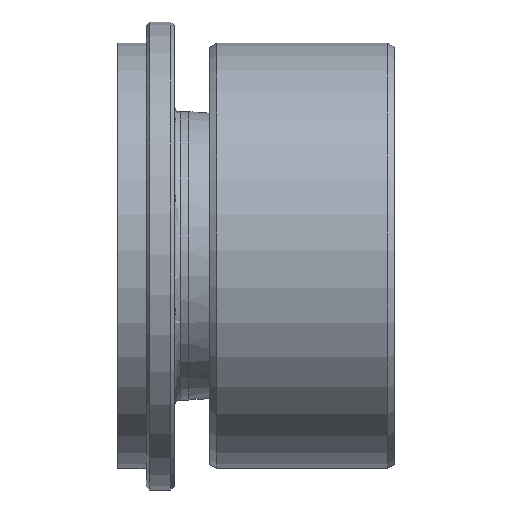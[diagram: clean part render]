
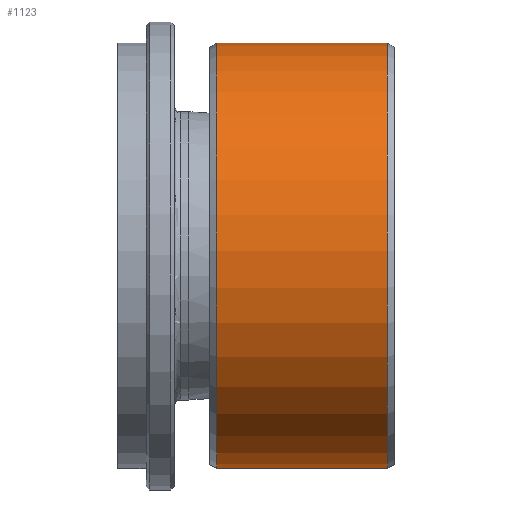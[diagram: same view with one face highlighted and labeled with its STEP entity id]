
A CAD part, top view. The second image highlights one B-rep face of the part: STEP entity #1123.
In plain terms, the highlighted cylindrical face has radius 30 mm (diameter 60 mm), a partial arc.
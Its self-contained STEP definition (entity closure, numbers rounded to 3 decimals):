
#136=CIRCLE('',#1306,30.);
#138=CIRCLE('',#1309,30.);
#187=CYLINDRICAL_SURFACE('',#1308,30.);
#230=FACE_OUTER_BOUND('',#299,.T.);
#299=EDGE_LOOP('',(#972,#973,#974,#975));
#392=LINE('',#2129,#452);
#398=LINE('',#2150,#458);
#452=VECTOR('',#1576,10.);
#458=VECTOR('',#1584,10.);
#546=VERTEX_POINT('',#2126);
#547=VERTEX_POINT('',#2128);
#554=VERTEX_POINT('',#2147);
#555=VERTEX_POINT('',#2149);
#690=EDGE_CURVE('',#547,#546,#392,.T.);
#698=EDGE_CURVE('',#555,#554,#398,.T.);
#701=EDGE_CURVE('',#547,#554,#136,.T.);
#703=EDGE_CURVE('',#555,#546,#138,.T.);
#972=ORIENTED_EDGE('',*,*,#690,.T.);
#973=ORIENTED_EDGE('',*,*,#703,.F.);
#974=ORIENTED_EDGE('',*,*,#698,.T.);
#975=ORIENTED_EDGE('',*,*,#701,.F.);
#1123=ADVANCED_FACE('',(#230),#187,.T.);
#1306=AXIS2_PLACEMENT_3D('',#2155,#1589,#1590);
#1308=AXIS2_PLACEMENT_3D('',#2157,#1593,#1594);
#1309=AXIS2_PLACEMENT_3D('',#2158,#1595,#1596);
#1576=DIRECTION('',(1.,0.,0.));
#1584=DIRECTION('',(-1.,0.,0.));
#1589=DIRECTION('center_axis',(-1.,0.,0.));
#1590=DIRECTION('ref_axis',(0.,-1.,0.));
#1593=DIRECTION('center_axis',(1.,0.,0.));
#1594=DIRECTION('ref_axis',(0.,0.,-1.));
#1595=DIRECTION('center_axis',(1.,0.,0.));
#1596=DIRECTION('ref_axis',(0.,-1.,0.));
#2126=CARTESIAN_POINT('',(25.,1.25,29.974));
#2128=CARTESIAN_POINT('',(1.,1.25,29.974));
#2129=CARTESIAN_POINT('',(13.,1.25,29.974));
#2147=CARTESIAN_POINT('',(1.,-1.25,29.974));
#2149=CARTESIAN_POINT('',(25.,-1.25,29.974));
#2150=CARTESIAN_POINT('',(13.,-1.25,29.974));
#2155=CARTESIAN_POINT('Origin',(1.,0.,0.));
#2157=CARTESIAN_POINT('Origin',(13.,0.,0.));
#2158=CARTESIAN_POINT('Origin',(25.,0.,0.));
